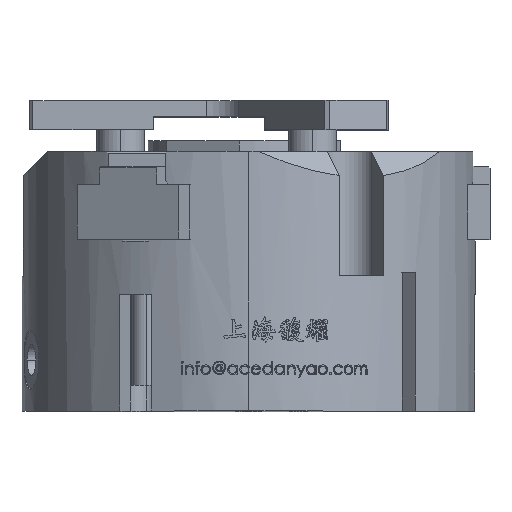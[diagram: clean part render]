
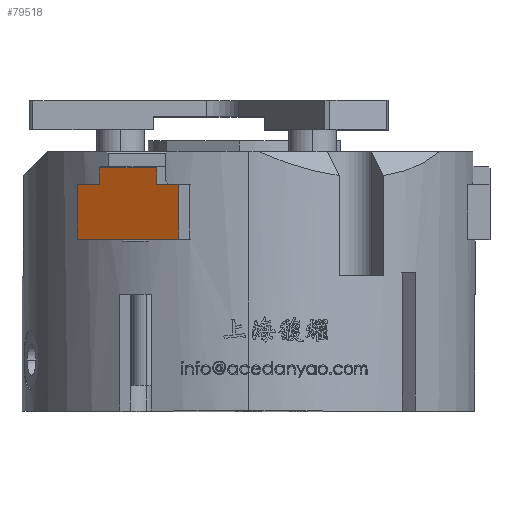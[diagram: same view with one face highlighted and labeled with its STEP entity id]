
A CAD part, top view. The second image highlights one B-rep face of the part: STEP entity #79518.
In plain terms, the highlighted planar face has unit normal (-0.5, 0, 0.866) as drawn and (1, 0, 0) by its records, which use the part's own axes.
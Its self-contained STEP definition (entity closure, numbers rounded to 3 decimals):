
#258 = EDGE_CURVE ( 'NONE', #81611, #44970, #86804, .T. ) ;
#447 = VERTEX_POINT ( 'NONE', #33935 ) ;
#1481 = VERTEX_POINT ( 'NONE', #42165 ) ;
#2300 = EDGE_CURVE ( 'NONE', #6125, #447, #60068, .T. ) ;
#3725 = CARTESIAN_POINT ( 'NONE',  ( 0., 15., -16. ) ) ;
#6125 = VERTEX_POINT ( 'NONE', #18605 ) ;
#6654 = DIRECTION ( 'NONE',  ( 0., 0., -1. ) ) ;
#6772 = ORIENTED_EDGE ( 'NONE', *, *, #20748, .F. ) ;
#11285 = CARTESIAN_POINT ( 'NONE',  ( 0., 15., 9. ) ) ;
#11470 = CARTESIAN_POINT ( 'NONE',  ( 0., 19.5, -9. ) ) ;
#12471 = ORIENTED_EDGE ( 'NONE', *, *, #258, .F. ) ;
#13469 = CARTESIAN_POINT ( 'NONE',  ( 0., 15., 16. ) ) ;
#14259 = LINE ( 'NONE', #31100, #68735 ) ;
#18605 = CARTESIAN_POINT ( 'NONE',  ( 0., 0., 16. ) ) ;
#20748 = EDGE_CURVE ( 'NONE', #447, #88773, #84501, .T. ) ;
#21408 = EDGE_CURVE ( 'NONE', #6125, #1481, #73360, .T. ) ;
#21422 = CARTESIAN_POINT ( 'NONE',  ( 0., 19.5, 16. ) ) ;
#25514 = VECTOR ( 'NONE', #51483, 1000. ) ;
#25872 = DIRECTION ( 'NONE',  ( 0., 1., 0. ) ) ;
#26328 = EDGE_CURVE ( 'NONE', #44970, #1481, #14259, .T. ) ;
#28601 = PLANE ( 'NONE',  #50685 ) ;
#29899 = CARTESIAN_POINT ( 'NONE',  ( 0., 19.5, 9. ) ) ;
#30042 = VECTOR ( 'NONE', #6654, 1000. ) ;
#31100 = CARTESIAN_POINT ( 'NONE',  ( 0., 24., -16. ) ) ;
#31495 = CARTESIAN_POINT ( 'NONE',  ( 0., 15., 16. ) ) ;
#33935 = CARTESIAN_POINT ( 'NONE',  ( 0., 15., 16. ) ) ;
#35768 = DIRECTION ( 'NONE',  ( 0., 0., 1. ) ) ;
#35874 = CARTESIAN_POINT ( 'NONE',  ( 0., 19.5, 9. ) ) ;
#39667 = VECTOR ( 'NONE', #78387, 1000. ) ;
#42165 = CARTESIAN_POINT ( 'NONE',  ( 0., 0., -16. ) ) ;
#43363 = VERTEX_POINT ( 'NONE', #29899 ) ;
#44970 = VERTEX_POINT ( 'NONE', #3725 ) ;
#46026 = VECTOR ( 'NONE', #60842, 1000. ) ;
#48246 = LINE ( 'NONE', #11470, #46026 ) ;
#50685 = AXIS2_PLACEMENT_3D ( 'NONE', #21422, #78284, #35768 ) ;
#51009 = EDGE_CURVE ( 'NONE', #83459, #81611, #48246, .T. ) ;
#51483 = DIRECTION ( 'NONE',  ( 0., 0., -1. ) ) ;
#60068 = LINE ( 'NONE', #60392, #78920 ) ;
#60392 = CARTESIAN_POINT ( 'NONE',  ( 0., 19.5, 16. ) ) ;
#60842 = DIRECTION ( 'NONE',  ( 0., -1., 0. ) ) ;
#63406 = ORIENTED_EDGE ( 'NONE', *, *, #2300, .F. ) ;
#64661 = EDGE_CURVE ( 'NONE', #43363, #83459, #82185, .T. ) ;
#66301 = ORIENTED_EDGE ( 'NONE', *, *, #64661, .F. ) ;
#66804 = DIRECTION ( 'NONE',  ( 0., -1., 0. ) ) ;
#67097 = ORIENTED_EDGE ( 'NONE', *, *, #88430, .F. ) ;
#68735 = VECTOR ( 'NONE', #66804, 1000. ) ;
#72918 = CARTESIAN_POINT ( 'NONE',  ( 0., 19.5, 16. ) ) ;
#72984 = LINE ( 'NONE', #35874, #39667 ) ;
#73360 = LINE ( 'NONE', #81640, #75576 ) ;
#75332 = CARTESIAN_POINT ( 'NONE',  ( 0., 15., -9. ) ) ;
#75576 = VECTOR ( 'NONE', #90333, 1000. ) ;
#76813 = ORIENTED_EDGE ( 'NONE', *, *, #26328, .F. ) ;
#78284 = DIRECTION ( 'NONE',  ( -1., 0., 0. ) ) ;
#78387 = DIRECTION ( 'NONE',  ( 0., 1., 0. ) ) ;
#78920 = VECTOR ( 'NONE', #25872, 1000. ) ;
#79518 = ADVANCED_FACE ( 'NONE', ( #86319 ), #28601, .F. ) ;
#81141 = ORIENTED_EDGE ( 'NONE', *, *, #21408, .T. ) ;
#81611 = VERTEX_POINT ( 'NONE', #75332 ) ;
#81640 = CARTESIAN_POINT ( 'NONE',  ( 0., 0., 16. ) ) ;
#82185 = LINE ( 'NONE', #72918, #25514 ) ;
#83135 = ORIENTED_EDGE ( 'NONE', *, *, #51009, .F. ) ;
#83459 = VERTEX_POINT ( 'NONE', #85658 ) ;
#84501 = LINE ( 'NONE', #13469, #30042 ) ;
#84577 = VECTOR ( 'NONE', #88332, 1000. ) ;
#85658 = CARTESIAN_POINT ( 'NONE',  ( 0., 19.5, -9. ) ) ;
#86319 = FACE_OUTER_BOUND ( 'NONE', #90292, .T. ) ;
#86804 = LINE ( 'NONE', #31495, #84577 ) ;
#88332 = DIRECTION ( 'NONE',  ( 0., 0., -1. ) ) ;
#88430 = EDGE_CURVE ( 'NONE', #88773, #43363, #72984, .T. ) ;
#88773 = VERTEX_POINT ( 'NONE', #11285 ) ;
#90292 = EDGE_LOOP ( 'NONE', ( #12471, #83135, #66301, #67097, #6772, #63406, #81141, #76813 ) ) ;
#90333 = DIRECTION ( 'NONE',  ( 0., 0., -1. ) ) ;
